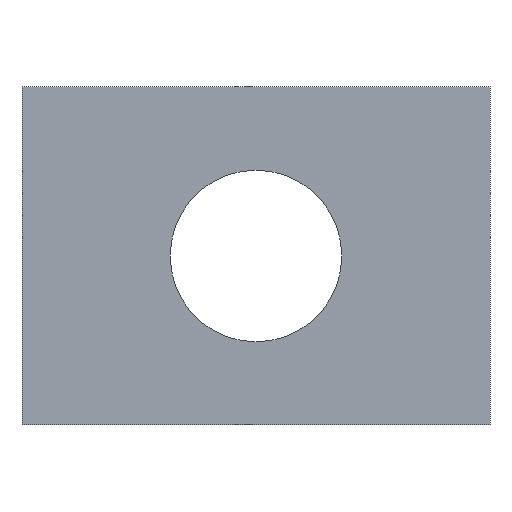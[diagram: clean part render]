
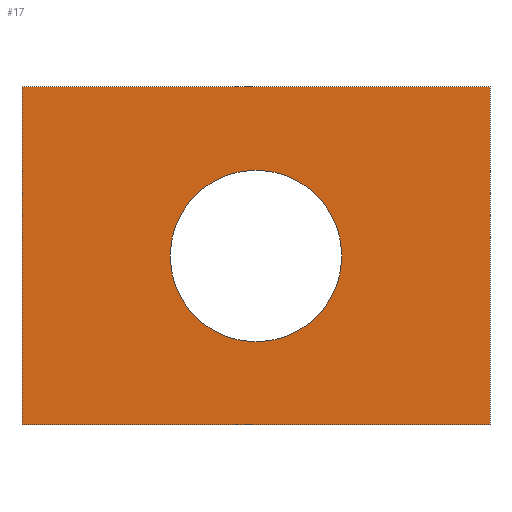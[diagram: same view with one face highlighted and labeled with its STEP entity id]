
A CAD part, left-side view. The second image highlights one B-rep face of the part: STEP entity #17.
In plain terms, the highlighted planar face has unit normal (-1, 0, 0).
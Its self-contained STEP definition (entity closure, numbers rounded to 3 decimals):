
#17 = ADVANCED_FACE('',(#18,#137),#32,.F.);
#18 = FACE_BOUND('',#19,.F.);
#19 = EDGE_LOOP('',(#20,#55,#83,#111));
#20 = ORIENTED_EDGE('',*,*,#21,.F.);
#21 = EDGE_CURVE('',#22,#24,#26,.T.);
#22 = VERTEX_POINT('',#23);
#23 = CARTESIAN_POINT('',(-3.5,-9.,-6.5));
#24 = VERTEX_POINT('',#25);
#25 = CARTESIAN_POINT('',(-3.5,-9.,6.5));
#26 = SURFACE_CURVE('',#27,(#31,#43),.PCURVE_S1.);
#27 = LINE('',#28,#29);
#28 = CARTESIAN_POINT('',(-3.5,-9.,-6.5));
#29 = VECTOR('',#30,1.);
#30 = DIRECTION('',(0.,0.,1.));
#31 = PCURVE('',#32,#37);
#32 = PLANE('',#33);
#33 = AXIS2_PLACEMENT_3D('',#34,#35,#36);
#34 = CARTESIAN_POINT('',(-3.5,-9.,-6.5));
#35 = DIRECTION('',(1.,0.,0.));
#36 = DIRECTION('',(0.,0.,1.));
#37 = DEFINITIONAL_REPRESENTATION('',(#38),#42);
#38 = LINE('',#39,#40);
#39 = CARTESIAN_POINT('',(0.,0.));
#40 = VECTOR('',#41,1.);
#41 = DIRECTION('',(1.,0.));
#42 = ( GEOMETRIC_REPRESENTATION_CONTEXT(2) 
PARAMETRIC_REPRESENTATION_CONTEXT() REPRESENTATION_CONTEXT('2D SPACE',''
  ) );
#43 = PCURVE('',#44,#49);
#44 = PLANE('',#45);
#45 = AXIS2_PLACEMENT_3D('',#46,#47,#48);
#46 = CARTESIAN_POINT('',(-3.5,-9.,-6.5));
#47 = DIRECTION('',(0.,1.,0.));
#48 = DIRECTION('',(0.,0.,1.));
#49 = DEFINITIONAL_REPRESENTATION('',(#50),#54);
#50 = LINE('',#51,#52);
#51 = CARTESIAN_POINT('',(0.,0.));
#52 = VECTOR('',#53,1.);
#53 = DIRECTION('',(1.,0.));
#54 = ( GEOMETRIC_REPRESENTATION_CONTEXT(2) 
PARAMETRIC_REPRESENTATION_CONTEXT() REPRESENTATION_CONTEXT('2D SPACE',''
  ) );
#55 = ORIENTED_EDGE('',*,*,#56,.T.);
#56 = EDGE_CURVE('',#22,#57,#59,.T.);
#57 = VERTEX_POINT('',#58);
#58 = CARTESIAN_POINT('',(-3.5,9.,-6.5));
#59 = SURFACE_CURVE('',#60,(#64,#71),.PCURVE_S1.);
#60 = LINE('',#61,#62);
#61 = CARTESIAN_POINT('',(-3.5,-9.,-6.5));
#62 = VECTOR('',#63,1.);
#63 = DIRECTION('',(0.,1.,0.));
#64 = PCURVE('',#32,#65);
#65 = DEFINITIONAL_REPRESENTATION('',(#66),#70);
#66 = LINE('',#67,#68);
#67 = CARTESIAN_POINT('',(0.,0.));
#68 = VECTOR('',#69,1.);
#69 = DIRECTION('',(0.,-1.));
#70 = ( GEOMETRIC_REPRESENTATION_CONTEXT(2) 
PARAMETRIC_REPRESENTATION_CONTEXT() REPRESENTATION_CONTEXT('2D SPACE',''
  ) );
#71 = PCURVE('',#72,#77);
#72 = PLANE('',#73);
#73 = AXIS2_PLACEMENT_3D('',#74,#75,#76);
#74 = CARTESIAN_POINT('',(-3.5,-9.,-6.5));
#75 = DIRECTION('',(0.,0.,1.));
#76 = DIRECTION('',(1.,0.,0.));
#77 = DEFINITIONAL_REPRESENTATION('',(#78),#82);
#78 = LINE('',#79,#80);
#79 = CARTESIAN_POINT('',(0.,0.));
#80 = VECTOR('',#81,1.);
#81 = DIRECTION('',(0.,1.));
#82 = ( GEOMETRIC_REPRESENTATION_CONTEXT(2) 
PARAMETRIC_REPRESENTATION_CONTEXT() REPRESENTATION_CONTEXT('2D SPACE',''
  ) );
#83 = ORIENTED_EDGE('',*,*,#84,.T.);
#84 = EDGE_CURVE('',#57,#85,#87,.T.);
#85 = VERTEX_POINT('',#86);
#86 = CARTESIAN_POINT('',(-3.5,9.,6.5));
#87 = SURFACE_CURVE('',#88,(#92,#99),.PCURVE_S1.);
#88 = LINE('',#89,#90);
#89 = CARTESIAN_POINT('',(-3.5,9.,-6.5));
#90 = VECTOR('',#91,1.);
#91 = DIRECTION('',(0.,0.,1.));
#92 = PCURVE('',#32,#93);
#93 = DEFINITIONAL_REPRESENTATION('',(#94),#98);
#94 = LINE('',#95,#96);
#95 = CARTESIAN_POINT('',(0.,-18.));
#96 = VECTOR('',#97,1.);
#97 = DIRECTION('',(1.,0.));
#98 = ( GEOMETRIC_REPRESENTATION_CONTEXT(2) 
PARAMETRIC_REPRESENTATION_CONTEXT() REPRESENTATION_CONTEXT('2D SPACE',''
  ) );
#99 = PCURVE('',#100,#105);
#100 = PLANE('',#101);
#101 = AXIS2_PLACEMENT_3D('',#102,#103,#104);
#102 = CARTESIAN_POINT('',(-3.5,9.,-6.5));
#103 = DIRECTION('',(0.,1.,0.));
#104 = DIRECTION('',(0.,0.,1.));
#105 = DEFINITIONAL_REPRESENTATION('',(#106),#110);
#106 = LINE('',#107,#108);
#107 = CARTESIAN_POINT('',(0.,0.));
#108 = VECTOR('',#109,1.);
#109 = DIRECTION('',(1.,0.));
#110 = ( GEOMETRIC_REPRESENTATION_CONTEXT(2) 
PARAMETRIC_REPRESENTATION_CONTEXT() REPRESENTATION_CONTEXT('2D SPACE',''
  ) );
#111 = ORIENTED_EDGE('',*,*,#112,.F.);
#112 = EDGE_CURVE('',#24,#85,#113,.T.);
#113 = SURFACE_CURVE('',#114,(#118,#125),.PCURVE_S1.);
#114 = LINE('',#115,#116);
#115 = CARTESIAN_POINT('',(-3.5,-9.,6.5));
#116 = VECTOR('',#117,1.);
#117 = DIRECTION('',(0.,1.,0.));
#118 = PCURVE('',#32,#119);
#119 = DEFINITIONAL_REPRESENTATION('',(#120),#124);
#120 = LINE('',#121,#122);
#121 = CARTESIAN_POINT('',(13.,0.));
#122 = VECTOR('',#123,1.);
#123 = DIRECTION('',(0.,-1.));
#124 = ( GEOMETRIC_REPRESENTATION_CONTEXT(2) 
PARAMETRIC_REPRESENTATION_CONTEXT() REPRESENTATION_CONTEXT('2D SPACE',''
  ) );
#125 = PCURVE('',#126,#131);
#126 = PLANE('',#127);
#127 = AXIS2_PLACEMENT_3D('',#128,#129,#130);
#128 = CARTESIAN_POINT('',(-3.5,-9.,6.5));
#129 = DIRECTION('',(0.,0.,1.));
#130 = DIRECTION('',(1.,0.,0.));
#131 = DEFINITIONAL_REPRESENTATION('',(#132),#136);
#132 = LINE('',#133,#134);
#133 = CARTESIAN_POINT('',(0.,0.));
#134 = VECTOR('',#135,1.);
#135 = DIRECTION('',(0.,1.));
#136 = ( GEOMETRIC_REPRESENTATION_CONTEXT(2) 
PARAMETRIC_REPRESENTATION_CONTEXT() REPRESENTATION_CONTEXT('2D SPACE',''
  ) );
#137 = FACE_BOUND('',#138,.F.);
#138 = EDGE_LOOP('',(#139));
#139 = ORIENTED_EDGE('',*,*,#140,.T.);
#140 = EDGE_CURVE('',#141,#141,#143,.T.);
#141 = VERTEX_POINT('',#142);
#142 = CARTESIAN_POINT('',(-3.5,3.3,0.));
#143 = SURFACE_CURVE('',#144,(#149,#160),.PCURVE_S1.);
#144 = CIRCLE('',#145,3.3);
#145 = AXIS2_PLACEMENT_3D('',#146,#147,#148);
#146 = CARTESIAN_POINT('',(-3.5,0.,0.));
#147 = DIRECTION('',(-1.,0.,0.));
#148 = DIRECTION('',(0.,1.,0.));
#149 = PCURVE('',#32,#150);
#150 = DEFINITIONAL_REPRESENTATION('',(#151),#159);
#151 = ( BOUNDED_CURVE() B_SPLINE_CURVE(2,(#152,#153,#154,#155,#156,#157
,#158),.UNSPECIFIED.,.T.,.F.) B_SPLINE_CURVE_WITH_KNOTS((1,2,2,2,2,1),(
    -2.094,0.,2.094,4.189,6.283,
8.378),.UNSPECIFIED.) CURVE() GEOMETRIC_REPRESENTATION_ITEM() 
RATIONAL_B_SPLINE_CURVE((1.,0.5,1.,0.5,1.,0.5,1.)) REPRESENTATION_ITEM(
  '') );
#152 = CARTESIAN_POINT('',(6.5,-12.3));
#153 = CARTESIAN_POINT('',(0.784,-12.3));
#154 = CARTESIAN_POINT('',(3.642,-7.35));
#155 = CARTESIAN_POINT('',(6.5,-2.4));
#156 = CARTESIAN_POINT('',(9.358,-7.35));
#157 = CARTESIAN_POINT('',(12.216,-12.3));
#158 = CARTESIAN_POINT('',(6.5,-12.3));
#159 = ( GEOMETRIC_REPRESENTATION_CONTEXT(2) 
PARAMETRIC_REPRESENTATION_CONTEXT() REPRESENTATION_CONTEXT('2D SPACE',''
  ) );
#160 = PCURVE('',#161,#166);
#161 = CYLINDRICAL_SURFACE('',#162,3.3);
#162 = AXIS2_PLACEMENT_3D('',#163,#164,#165);
#163 = CARTESIAN_POINT('',(-5.,0.,0.));
#164 = DIRECTION('',(-1.,-0.,-0.));
#165 = DIRECTION('',(0.,1.,0.));
#166 = DEFINITIONAL_REPRESENTATION('',(#167),#171);
#167 = LINE('',#168,#169);
#168 = CARTESIAN_POINT('',(-6.283,-1.5));
#169 = VECTOR('',#170,1.);
#170 = DIRECTION('',(1.,-0.));
#171 = ( GEOMETRIC_REPRESENTATION_CONTEXT(2) 
PARAMETRIC_REPRESENTATION_CONTEXT() REPRESENTATION_CONTEXT('2D SPACE',''
  ) );
